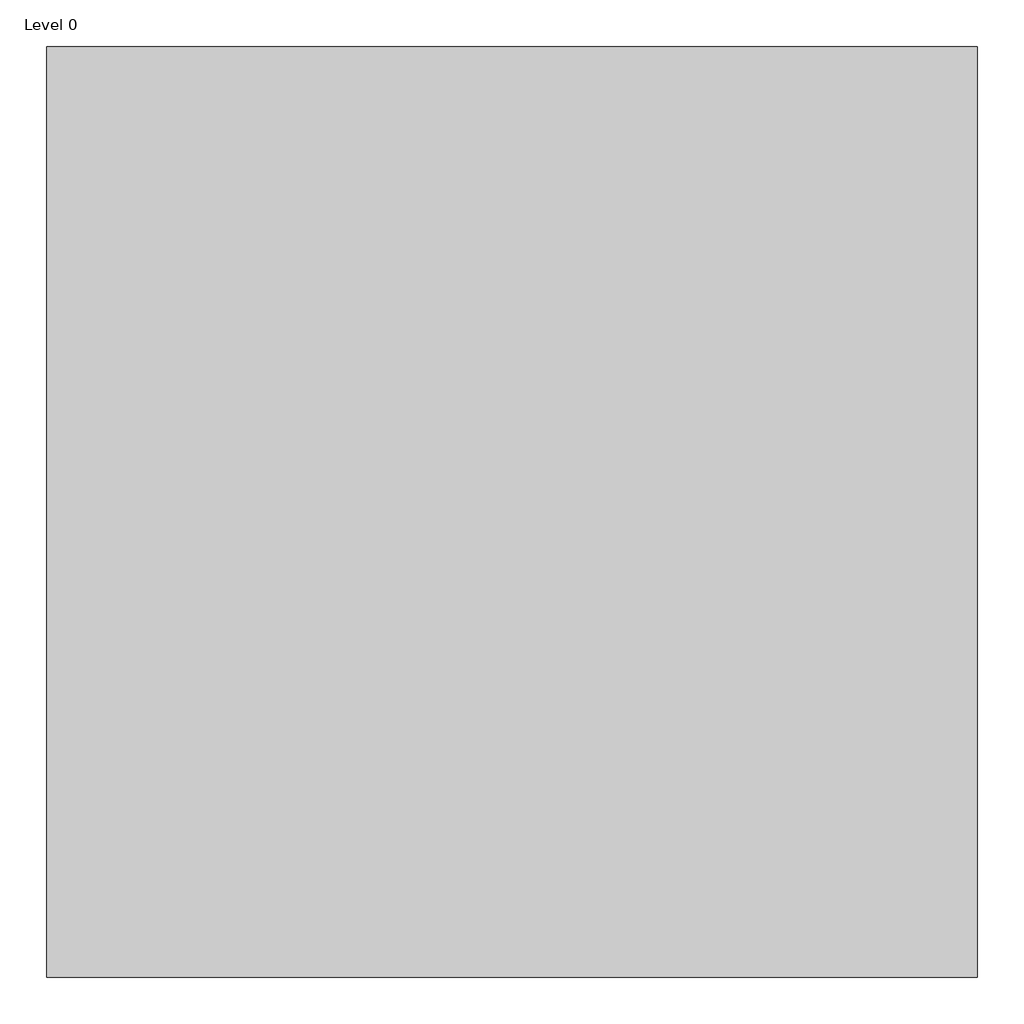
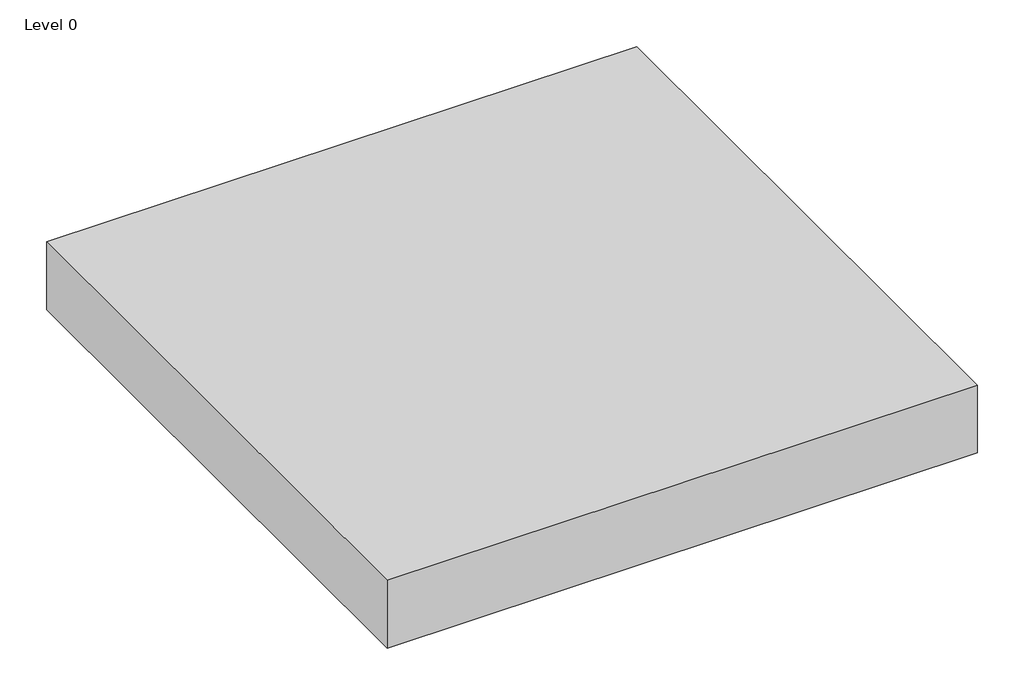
# One storey: 1 proxy.
"""IFC4 building model written with IfcOpenShell, lengths in millimetres."""

from ifc_helpers import new_model, si_unit, origin, origin_with_axes, place, context, project, spatial, polyline, outline, extrude, element, save

model = new_model("IFC4")

# Units and contexts
model_context = context("Model", 3, world=origin())
ifc_project = project(units=[si_unit("LENGTHUNIT", "METRE", prefix="MILLI")], contexts=[model_context])

# Site, building, storey
site = spatial("IfcSite", under=ifc_project)
building = spatial("IfcBuilding", under=site)
storey = spatial("IfcBuildingStorey", under=building, Name="Level 0", Elevation=0.0)

# Proxy
placement = place(None, origin())
element("IfcBuildingElementProxy", 1, Name="NBS_DeltaMembranes_FlagandSlabBoundPavingSystem_DeltaFloraxx_Drivable", ObjectType="NBS_DeltaMembranes_FlagandSlabBoundPavingSystem_DeltaFloraxx_Drivable", at=placement, inside=storey, context=model_context, shape_type="SweptSolid", body=[
    extrude(outline(polyline([(4387.8819039, 3529.3022109), (4387.8819039, 6029.3022109), (6887.8819039, 6029.3022109), (6887.8819039, 3529.3022109), (4387.8819039, 3529.3022109)])), origin_with_axes(), (0.0, 0.0, 1.0), 304.0),
])

save(model, "model.ifc")
